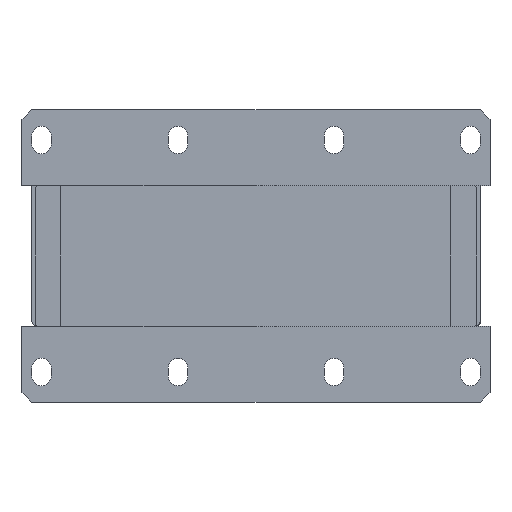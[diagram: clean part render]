
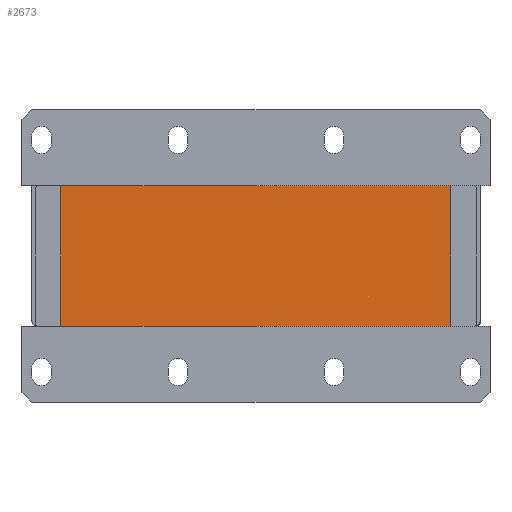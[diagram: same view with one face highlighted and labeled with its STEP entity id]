
A CAD part, front view. The second image highlights one B-rep face of the part: STEP entity #2673.
In plain terms, the highlighted planar face has unit normal (0, -1, 0).
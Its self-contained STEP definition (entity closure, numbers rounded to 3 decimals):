
#233=FACE_OUTER_BOUND('',#401,.T.);
#401=EDGE_LOOP('',(#2065,#2066,#2067,#2068));
#617=LINE('',#4119,#921);
#621=LINE('',#4127,#925);
#624=LINE('',#4133,#928);
#627=LINE('',#4138,#931);
#921=VECTOR('',#3333,10.);
#925=VECTOR('',#3339,10.);
#928=VECTOR('',#3344,10.);
#931=VECTOR('',#3349,10.);
#1205=VERTEX_POINT('',#4117);
#1206=VERTEX_POINT('',#4118);
#1209=VERTEX_POINT('',#4126);
#1211=VERTEX_POINT('',#4132);
#1509=EDGE_CURVE('',#1205,#1206,#617,.T.);
#1513=EDGE_CURVE('',#1206,#1209,#621,.T.);
#1516=EDGE_CURVE('',#1209,#1211,#624,.T.);
#1519=EDGE_CURVE('',#1211,#1205,#627,.T.);
#2065=ORIENTED_EDGE('',*,*,#1519,.T.);
#2066=ORIENTED_EDGE('',*,*,#1509,.T.);
#2067=ORIENTED_EDGE('',*,*,#1513,.T.);
#2068=ORIENTED_EDGE('',*,*,#1516,.T.);
#2549=PLANE('',#2889);
#2673=ADVANCED_FACE('',(#233),#2549,.T.);
#2889=AXIS2_PLACEMENT_3D('',#4140,#3351,#3352);
#3333=DIRECTION('',(0.,0.,1.));
#3339=DIRECTION('',(-1.,0.,0.));
#3344=DIRECTION('',(0.,0.,-1.));
#3349=DIRECTION('',(1.,0.,0.));
#3351=DIRECTION('center_axis',(0.,-1.,0.));
#3352=DIRECTION('ref_axis',(0.,0.,-1.));
#4117=CARTESIAN_POINT('',(100.,2.,-36.));
#4118=CARTESIAN_POINT('',(100.,2.,36.));
#4119=CARTESIAN_POINT('',(100.,2.,-36.));
#4126=CARTESIAN_POINT('',(-100.,2.,36.));
#4127=CARTESIAN_POINT('',(100.,2.,36.));
#4132=CARTESIAN_POINT('',(-100.,2.,-36.));
#4133=CARTESIAN_POINT('',(-100.,2.,36.));
#4138=CARTESIAN_POINT('',(-100.,2.,-36.));
#4140=CARTESIAN_POINT('Origin',(0.,2.,0.));
